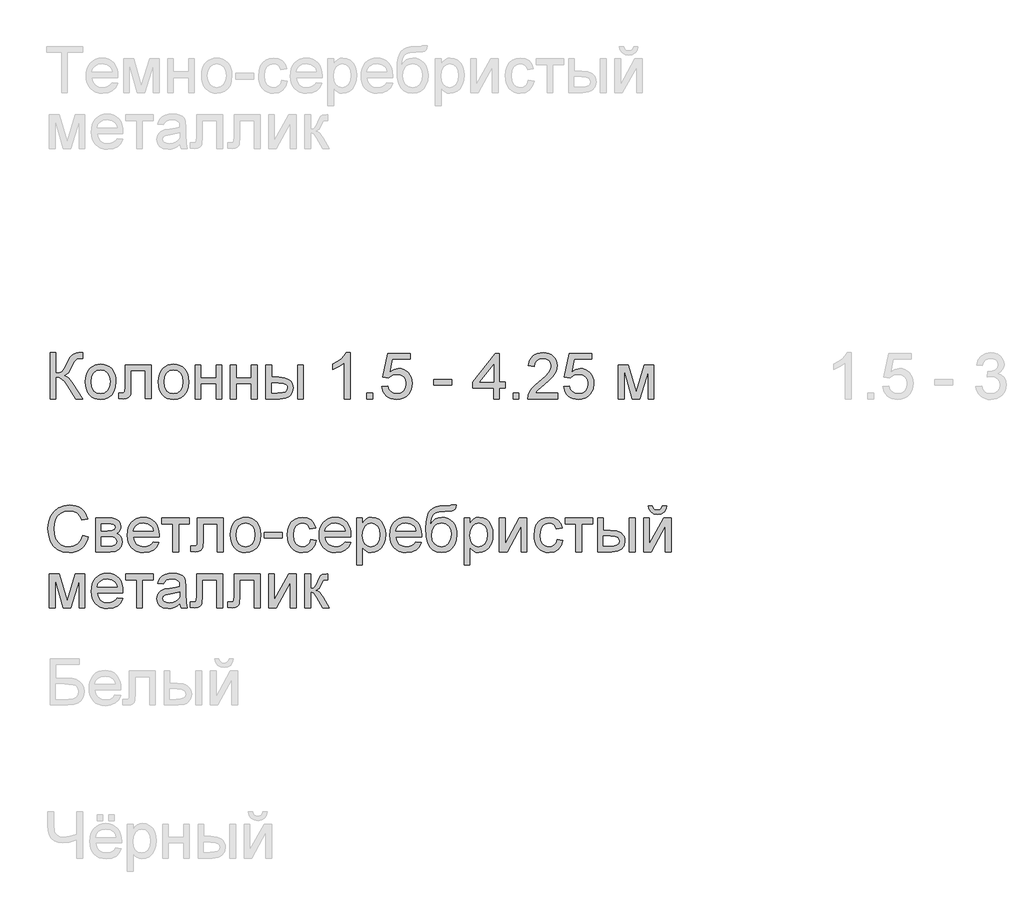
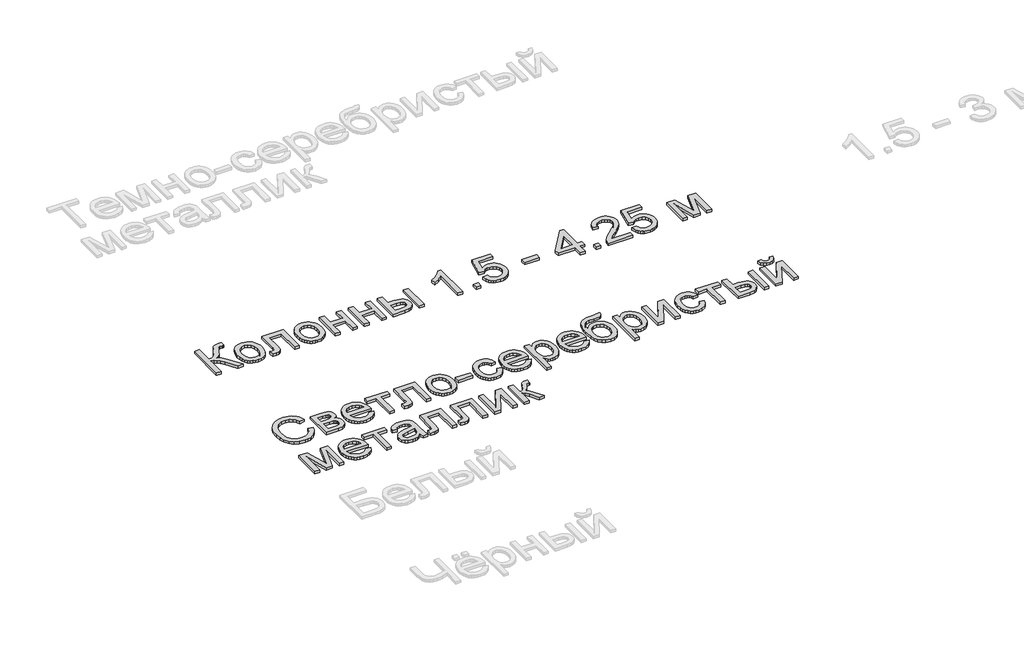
# One storey, part 9 of 168: 2 proxies.
"""IFC4 building model written with IfcOpenShell, lengths in millimetres."""

from ifc_helpers import new_model, si_unit, origin, origin_with_axes, place, context, project, spatial, polyline, outline, extrude, element, save

model = new_model("IFC4")

# Units and contexts
model_context = context("Model", 3, world=origin())
ifc_project = project(units=[si_unit("LENGTHUNIT", "METRE", prefix="MILLI")], contexts=[model_context])

# Site, building, storey
site = spatial("IfcSite", under=ifc_project)
building = spatial("IfcBuilding", under=site)
storey = spatial("IfcBuildingStorey", under=building, Name="Этаж 01", Elevation=0.0)

# Proxies
placement = place(None, origin())
element("IfcBuildingElementProxy", 1, Name="300 мм Arial 2", ObjectType="300 мм Arial 2", at=placement, inside=storey, context=model_context, shape_type="SweptSolid", body=[
    extrude(outline(polyline([(990.7177608, -37859.7350607), (1028.3888771, -37869.4471454), (1020.9346682, -37892.8743307), (1011.0064528, -37913.3446645), (998.6042311, -37930.8581467), (983.7280029, -37945.4147774), (966.7134606, -37956.8582067), (947.8962965, -37965.0320848), (927.2765107, -37969.9364117), (904.8541031, -37971.5711873), (861.1589191, -37966.6231744), (826.4584499, -37951.7791359), (799.8605817, -37927.5541065), (780.4732005, -37894.4631211), (768.6365973, -37855.5596001), (764.6910629, -37813.8969641), (769.1516321, -37769.9534598), (782.5333397, -37732.006432), (804.1372099, -37701.2606943), (833.2642668, -37678.9210601), (867.8083862, -37665.3186233), (905.6634435, -37660.7844777), (946.9673945, -37666.6521956), (964.9361307, -37673.9868428), (981.1160407, -37684.255349), (995.2404101, -37697.1864012), (1007.0425243, -37712.5086863), (1023.6799876, -37750.3269554), (986.0088712, -37759.3032761), (972.9490604, -37731.8316881), (955.1067837, -37712.9869329), (932.2613118, -37702.0884288), (904.1919155, -37698.4555941), (871.836694, -37702.4839019), (845.2572199, -37714.5688254), (825.0880895, -37733.4411718), (811.9638993, -37757.8317481), (804.7626093, -37785.4045036), (802.3621793, -37813.8233877), (805.2040677, -37848.6250245), (813.7297329, -37878.7177717), (828.2610717, -37902.9519981), (849.1199808, -37920.1780725), (874.1267595, -37930.4695714), (901.1017068, -37933.900071), (932.5464203, -37929.2279696), (958.7488154, -37915.2116656), (978.5316697, -37891.9983117), (990.7177608, -37859.7350607)])), origin_with_axes(), (0.0, 0.0, 1.0), 20.0),
    extrude(outline(polyline([(1075.4777725, -37745.5444894), (1158.4719506, -37745.5444894), (1185.1525923, -37746.8044853), (1203.9789534, -37750.5844728), (1217.8297105, -37757.7213835), (1229.5835403, -37769.0521489), (1237.6125648, -37783.813414), (1240.2889063, -37801.2418235), (1238.6702255, -37815.2857187), (1233.8141832, -37827.3982334), (1225.7023852, -37837.6345499), (1214.3164375, -37846.0498505), (1228.2591651, -37853.87654), (1239.6267187, -37866.4673012), (1247.1866937, -37882.828853), (1249.7066854, -37901.9679138), (1243.3239328, -37930.6811035), (1228.1488005, -37950.8962191), (1204.1261062, -37962.8707781), (1171.2006676, -37966.8622977), (1075.4777725, -37966.8622977), (1075.4777725, -37745.5444894)]), holes=[polyline([(1113.1488888, -37830.3045011), (1150.3785467, -37830.3045011), (1181.0966933, -37828.3915147), (1196.0327023, -37820.7395692), (1200.9715181, -37814.4119989), (1202.61779, -37806.9072062), (1199.7299163, -37795.6684113), (1191.0662954, -37788.4395301), (1175.4129165, -37784.5215868), (1151.5557691, -37783.2156057), (1113.1488888, -37783.2156057), (1113.1488888, -37830.3045011)]), polyline([(1113.1488888, -37929.1911814), (1159.3548674, -37929.1911814), (1184.5363899, -37927.4897272), (1200.3369216, -37922.3853645), (1208.8166016, -37913.1055412), (1212.0355691, -37898.877705), (1210.4260854, -37889.4507289), (1205.5976342, -37880.7411227), (1198.184812, -37873.9261087), (1188.8222152, -37870.1829094), (1155.6760474, -37867.9756174), (1113.1488888, -37867.9756174), (1113.1488888, -37929.1911814)])]), origin_with_axes(), (0.0, 0.0, 1.0), 20.0),
    extrude(outline(polyline([(1451.7474771, -37900.9378442), (1488.6828295, -37905.6467337), (1475.3746983, -37933.4770067), (1454.1387101, -37954.2807335), (1425.4531115, -37967.2485738), (1389.7961492, -37971.5711873), (1366.4218469, -37969.7064854), (1345.5951274, -37964.1123798), (1327.3159908, -37954.7888705), (1311.584437, -37941.7359575), (1298.9338949, -37925.3169242), (1289.8977934, -37905.8950541), (1284.4761325, -37883.4703472), (1282.6689122, -37858.0428036), (1284.4945266, -37831.7530365), (1289.9713698, -37808.5810693), (1299.0994418, -37788.526902), (1311.8787426, -37771.5905347), (1327.5689097, -37758.1352507), (1345.4295805, -37748.5243336), (1365.4607552, -37742.7577833), (1387.6624336, -37740.8355999), (1409.1490414, -37742.7531848), (1428.5801085, -37748.5059395), (1445.955635, -37758.093864), (1461.2756208, -37771.5169583), (1473.7813094, -37788.4165374), (1482.7139441, -37808.4339165), (1488.0735249, -37831.5690955), (1489.8600518, -37857.8220744), (1489.6393226, -37867.9756174), (1320.3400285, -37867.9756174), (1326.8607368, -37896.1737724), (1342.008278, -37916.9039228), (1363.8696655, -37929.6510339), (1390.5319131, -37933.900071), (1410.5814819, -37931.9319023), (1427.4672655, -37926.0273963), (1441.1892639, -37915.8186709), (1451.7474771, -37900.9378442)]), holes=[polyline([(1320.3400285, -37830.3045011), (1452.1889355, -37830.3045011), (1447.0937699, -37810.4020852), (1437.1057737, -37796.165052), (1415.1432186, -37782.9213001), (1387.5152808, -37778.5067162), (1362.1222261, -37782.0291863), (1341.1253612, -37792.5965966), (1326.529643, -37809.068513), (1320.3400285, -37830.3045011)])]), origin_with_axes(), (0.0, 0.0, 1.0), 20.0),
    extrude(outline(polyline([(1508.69561, -37745.5444894), (1687.6334124, -37745.5444894), (1687.6334124, -37783.2156057), (1617.0000694, -37783.2156057), (1617.0000694, -37966.8622977), (1579.3289531, -37966.8622977), (1579.3289531, -37783.2156057), (1508.69561, -37783.2156057), (1508.69561, -37745.5444894)])), origin_with_axes(), (0.0, 0.0, 1.0), 20.0),
    extrude(outline(polyline([(1739.4311974, -37745.5444894), (1908.9512207, -37745.5444894), (1908.9512207, -37966.6415685), (1871.2801044, -37966.6415685), (1871.2801044, -37783.2156057), (1777.1023137, -37783.2156057), (1777.1023137, -37888.7977384), (1774.5639279, -37937.5053145), (1769.8090531, -37948.5325773), (1760.6212003, -37958.069918), (1746.6784727, -37964.6642028), (1727.6589735, -37966.8622977), (1697.0511915, -37964.9493114), (1697.0511915, -37929.1911814), (1713.9001869, -37929.1911814), (1730.9331233, -37926.8735249), (1737.7389402, -37919.515885), (1739.4311974, -37886.6640228), (1739.4311974, -37745.5444894)])), origin_with_axes(), (0.0, 0.0, 1.0), 20.0),
    extrude(outline(polyline([(1956.0401161, -37856.2033936), (1958.0772627, -37827.5407876), (1964.1887023, -37802.8421102), (1974.3744351, -37782.1073612), (1988.6344609, -37765.3365408), (2002.9910558, -37754.6173791), (2018.8375727, -37746.9608351), (2036.1740117, -37742.3669087), (2055.0003728, -37740.8355999), (2075.7834063, -37742.7003018), (2094.5752785, -37748.2944073), (2111.3759893, -37757.6179167), (2126.1855389, -37770.6708297), (2138.2727617, -37787.0116881), (2146.9064923, -37806.1990334), (2152.0867306, -37828.2328656), (2153.8134767, -37853.1131848), (2150.7600562, -37891.1705772), (2141.5997945, -37920.1412843), (2126.5994061, -37941.837125), (2106.0256056, -37958.069918), (2081.589044, -37968.19587), (2055.0003728, -37971.5711873), (2033.9138367, -37969.7133832), (2014.9472206, -37964.139971), (1998.1005245, -37954.8509506), (1983.3737484, -37941.8463221), (1971.4152843, -37925.3468146), (1962.8735242, -37905.5731573), (1957.7484681, -37882.5253503), (1956.0401161, -37856.2033936)]), holes=[polyline([(1993.7112324, -37856.1298172), (1998.0706341, -37890.2232811), (2011.148839, -37914.5126898), (2030.8305257, -37929.0532257), (2055.0003728, -37933.900071), (2079.0598553, -37929.0256345), (2098.7047539, -37914.4023252), (2111.7829588, -37889.7910197), (2116.1423604, -37854.9525948), (2111.7553676, -37821.8524123), (2098.5943893, -37797.8940973), (2078.9218996, -37783.3535615), (2055.0003728, -37778.5067162), (2030.8305257, -37783.3351674), (2011.148839, -37797.8205209), (1998.0706341, -37822.0547474), (1993.7112324, -37856.1298172)])]), origin_with_axes(), (0.0, 0.0, 1.0), 20.0),
    extrude(outline(polyline([(2177.3579244, -37877.3933965), (2177.3579244, -37839.7222802), (2295.0801629, -37839.7222802), (2295.0801629, -37877.3933965), (2177.3579244, -37877.3933965)])), origin_with_axes(), (0.0, 0.0, 1.0), 20.0),
    extrude(outline(polyline([(2478.7268549, -37886.8111756), (2516.3979712, -37891.5200651), (2505.8949402, -37925.0249178), (2486.1580712, -37950.3443962), (2459.0451681, -37966.2644895), (2426.4140352, -37971.5711873), (2405.2861123, -37969.720281), (2386.3424888, -37964.1675621), (2369.5831647, -37954.9130307), (2355.0081399, -37941.9566867), (2343.2106242, -37925.5422519), (2334.7838272, -37905.9134482), (2329.727749, -37883.0702755), (2328.0423897, -37857.012734), (2330.9210663, -37823.4894872), (2339.5570961, -37794.4360066), (2354.0884349, -37770.9743324), (2374.6530384, -37754.2265045), (2399.2551469, -37744.1833261), (2425.8990004, -37740.8355999), (2457.72999, -37745.4341248), (2483.178227, -37759.2296997), (2501.434371, -37781.4865604), (2511.6890816, -37811.468943), (2474.0179653, -37816.1778325), (2467.1845573, -37799.7427044), (2456.5435706, -37787.9612835), (2442.6836164, -37780.870358), (2426.193306, -37778.5067162), (2401.8487149, -37783.1604234), (2382.5257131, -37797.1215452), (2369.9165578, -37821.1442394), (2365.713506, -37855.9826644), (2369.8245873, -37891.2901389), (2382.1578311, -37915.3956066), (2401.131345, -37929.2739549), (2425.1632364, -37933.900071), (2444.6701792, -37931.0121973), (2460.6638489, -37922.3485763), (2472.298117, -37907.6884788), (2478.7268549, -37886.8111756)])), origin_with_axes(), (0.0, 0.0, 1.0), 20.0),
    extrude(outline(polyline([(2704.3120943, -37900.9378442), (2741.2474466, -37905.6467337), (2727.9393155, -37933.4770067), (2706.7033273, -37954.2807335), (2678.0177287, -37967.2485738), (2642.3607663, -37971.5711873), (2618.9864641, -37969.7064854), (2598.1597446, -37964.1123798), (2579.880608, -37954.7888705), (2564.1490542, -37941.7359575), (2551.498512, -37925.3169242), (2542.4624105, -37905.8950541), (2537.0407496, -37883.4703472), (2535.2335293, -37858.0428036), (2537.0591437, -37831.7530365), (2542.5359869, -37808.5810693), (2551.6640589, -37788.526902), (2564.4433598, -37771.5905347), (2580.1335268, -37758.1352507), (2597.9941977, -37748.5243336), (2618.0253723, -37742.7577833), (2640.2270508, -37740.8355999), (2661.7136585, -37742.7531848), (2681.1447257, -37748.5059395), (2698.5202522, -37758.093864), (2713.840238, -37771.5169583), (2726.3459266, -37788.4165374), (2735.2785613, -37808.4339165), (2740.6381421, -37831.5690955), (2742.424669, -37857.8220744), (2742.2039398, -37867.9756174), (2572.9046456, -37867.9756174), (2579.425354, -37896.1737724), (2594.5728952, -37916.9039228), (2616.4342827, -37929.6510339), (2643.0965303, -37933.900071), (2663.1460991, -37931.9319023), (2680.0318826, -37926.0273963), (2693.7538811, -37915.8186709), (2704.3120943, -37900.9378442)]), holes=[polyline([(2572.9046456, -37830.3045011), (2704.7535527, -37830.3045011), (2699.6583871, -37810.4020852), (2689.6703909, -37796.165052), (2667.7078358, -37782.9213001), (2640.079898, -37778.5067162), (2614.6868432, -37782.0291863), (2593.6899784, -37792.5965966), (2579.0942602, -37809.068513), (2572.9046456, -37830.3045011)])]), origin_with_axes(), (0.0, 0.0, 1.0), 20.0),
    extrude(outline(polyline([(2780.0957853, -38051.6223094), (2780.0957853, -37745.5444894), (2817.7669016, -37745.5444894), (2817.7669016, -37782.4798418), (2830.0541603, -37764.2604859), (2843.8129469, -37751.2466604), (2859.8526019, -37743.438365), (2878.9824656, -37740.8355999), (2904.4582938, -37744.4776316), (2926.7335486, -37755.4037269), (2944.870131, -37772.9516981), (2957.9299418, -37796.4593576), (2965.8210106, -37824.2160541), (2968.4513669, -37854.5111364), (2965.4807197, -37886.7284021), (2956.5687784, -37915.5427594), (2942.0006514, -37939.4918773), (2922.0614473, -37957.1134249), (2898.8388963, -37967.9567467), (2874.4207289, -37971.5711873), (2857.102684, -37969.1523632), (2841.6424431, -37961.8958908), (2828.4078883, -37950.9422044), (2817.7669016, -37937.4317381), (2817.7669016, -38051.6223094), (2780.0957853, -38051.6223094)]), holes=[polyline([(2817.7669016, -37857.9692272), (2821.8411947, -37891.7407943), (2834.064074, -37915.3588184), (2852.0994888, -37929.2647578), (2873.6113885, -37933.900071), (2895.4727761, -37929.0992109), (2913.9680434, -37914.6966308), (2926.5771988, -37890.214084), (2930.7802505, -37855.173324), (2926.6783663, -37821.5856978), (2914.3727136, -37797.63658), (2896.3648899, -37783.2891821), (2875.1564929, -37778.5067162), (2853.8653224, -37783.5926848), (2835.16772, -37798.8505905), (2822.1171062, -37823.8021869), (2817.7669016, -37857.9692272)])]), origin_with_axes(), (0.0, 0.0, 1.0), 20.0),
    extrude(outline(polyline([(3165.7832691, -37900.9378442), (3202.7186214, -37905.6467337), (3189.4104902, -37933.4770067), (3168.174502, -37954.2807335), (3139.4889035, -37967.2485738), (3103.8319411, -37971.5711873), (3080.4576388, -37969.7064854), (3059.6309194, -37964.1123798), (3041.3517827, -37954.7888705), (3025.6202289, -37941.7359575), (3012.9696868, -37925.3169242), (3003.9335853, -37905.8950541), (2998.5119244, -37883.4703472), (2996.7047041, -37858.0428036), (2998.5303185, -37831.7530365), (3004.0071617, -37808.5810693), (3013.1352337, -37788.526902), (3025.9145345, -37771.5905347), (3041.6047016, -37758.1352507), (3059.4653725, -37748.5243336), (3079.4965471, -37742.7577833), (3101.6982255, -37740.8355999), (3123.1848333, -37742.7531848), (3142.6159004, -37748.5059395), (3159.9914269, -37758.093864), (3175.3114127, -37771.5169583), (3187.8171013, -37788.4165374), (3196.749736, -37808.4339165), (3202.1093168, -37831.5690955), (3203.8958438, -37857.8220744), (3203.6751146, -37867.9756174), (3034.3758204, -37867.9756174), (3040.8965288, -37896.1737724), (3056.0440699, -37916.9039228), (3077.9054575, -37929.6510339), (3104.5677051, -37933.900071), (3124.6172738, -37931.9319023), (3141.5030574, -37926.0273963), (3155.2250558, -37915.8186709), (3165.7832691, -37900.9378442)]), holes=[polyline([(3034.3758204, -37830.3045011), (3166.2247275, -37830.3045011), (3161.1295618, -37810.4020852), (3151.1415657, -37796.165052), (3129.1790105, -37782.9213001), (3101.5510727, -37778.5067162), (3076.158018, -37782.0291863), (3055.1611531, -37792.5965966), (3040.565435, -37809.068513), (3034.3758204, -37830.3045011)])]), origin_with_axes(), (0.0, 0.0, 1.0), 20.0),
    extrude(outline(polyline([(3396.9603148, -37660.7844777), (3429.9225416, -37660.7844777), (3426.3540863, -37678.6911339), (3420.2104569, -37690.1782492), (3411.6939887, -37696.974869), (3401.0070168, -37700.8100388), (3354.8746146, -37703.1644836), (3316.5689018, -37705.3349874), (3292.7393456, -37711.8464987), (3278.4839183, -37723.1404759), (3268.9005923, -37739.6583775), (3263.2628007, -37761.5289621), (3260.8439766, -37788.8809885), (3275.9915178, -37767.8381383), (3293.4751096, -37752.8285529), (3313.3131462, -37743.8338382), (3335.5240216, -37740.8355999), (3356.0472384, -37742.7416885), (3374.7218482, -37748.4599542), (3391.547851, -37757.9903972), (3406.5252467, -37771.3330173), (3418.8217024, -37787.9267945), (3427.604885, -37807.2107089), (3432.8747946, -37829.1847603), (3434.6314311, -37853.8489488), (3431.1457492, -37889.8094138), (3420.6887035, -37918.6697564), (3405.4491919, -37941.101361), (3387.6161122, -37957.7756125), (3365.0281577, -37968.1222936), (3335.5240216, -37971.5711873), (3301.5225282, -37967.1290122), (3276.037503, -37953.8024869), (3257.2847183, -37933.5505831), (3243.4799464, -37908.3322723), (3234.9818724, -37870.3576533), (3232.149181, -37811.836825), (3233.9357079, -37772.1722481), (3239.2952888, -37739.55721), (3248.2279234, -37713.9917106), (3260.733612, -37695.4757499), (3276.9457117, -37682.3584575), (3296.9975797, -37672.9889629), (3320.889216, -37667.3672662), (3348.6206207, -37665.4933673), (3390.5591681, -37664.6472387), (3396.9603148, -37660.7844777)]), holes=[polyline([(3396.9603148, -37852.6717264), (3392.8768247, -37823.0296347), (3380.6263543, -37799.2920489), (3360.9446675, -37783.7030494), (3334.5675285, -37778.5067162), (3307.0683493, -37783.997355), (3295.9813057, -37790.8606535), (3286.6692927, -37800.4692713), (3274.0325461, -37826.1198434), (3269.8202973, -37859.1464495), (3274.4740045, -37891.1613802), (3288.4351263, -37914.6598426), (3309.220459, -37929.0900139), (3334.3467993, -37933.900071), (3359.6018982, -37928.3358558), (3379.5962847, -37911.6432103), (3392.6193073, -37885.7719089), (3396.9603148, -37852.6717264)])]), origin_with_axes(), (0.0, 0.0, 1.0), 20.0),
    extrude(outline(polyline([(3481.7203265, -38051.6223094), (3481.7203265, -37745.5444894), (3519.3914428, -37745.5444894), (3519.3914428, -37782.4798418), (3531.6787015, -37764.2604859), (3545.4374881, -37751.2466604), (3561.4771431, -37743.438365), (3580.6070068, -37740.8355999), (3606.082835, -37744.4776316), (3628.3580898, -37755.4037269), (3646.4946722, -37772.9516981), (3659.554483, -37796.4593576), (3667.4455518, -37824.2160541), (3670.0759081, -37854.5111364), (3667.1052609, -37886.7284021), (3658.1933196, -37915.5427594), (3643.6251926, -37939.4918773), (3623.6859885, -37957.1134249), (3600.4634375, -37967.9567467), (3576.0452701, -37971.5711873), (3558.7272252, -37969.1523632), (3543.2669843, -37961.8958908), (3530.0324295, -37950.9422044), (3519.3914428, -37937.4317381), (3519.3914428, -38051.6223094), (3481.7203265, -38051.6223094)]), holes=[polyline([(3519.3914428, -37857.9692272), (3523.4657359, -37891.7407943), (3535.6886152, -37915.3588184), (3553.72403, -37929.2647578), (3575.2359297, -37933.900071), (3597.0973173, -37929.0992109), (3615.5925846, -37914.6966308), (3628.20174, -37890.214084), (3632.4047917, -37855.173324), (3628.3029075, -37821.5856978), (3615.9972548, -37797.63658), (3597.9894311, -37783.2891821), (3576.7810341, -37778.5067162), (3555.4898636, -37783.5926848), (3536.7922612, -37798.8505905), (3523.7416474, -37823.8021869), (3519.3914428, -37857.9692272)])]), origin_with_axes(), (0.0, 0.0, 1.0), 20.0),
    extrude(outline(polyline([(3712.4559139, -37745.5444894), (3750.1270302, -37745.5444894), (3750.1270302, -37914.3287488), (3842.6861402, -37745.5444894), (3891.3937164, -37745.5444894), (3891.3937164, -37966.8622977), (3853.7226, -37966.8622977), (3853.7226, -37799.1081079), (3761.7521013, -37966.8622977), (3712.4559139, -37966.8622977), (3712.4559139, -37745.5444894)])), origin_with_axes(), (0.0, 0.0, 1.0), 20.0),
    extrude(outline(polyline([(4089.167077, -37886.8111756), (4126.8381933, -37891.5200651), (4116.3351623, -37925.0249178), (4096.5982933, -37950.3443962), (4069.4853902, -37966.2644895), (4036.8542572, -37971.5711873), (4015.7263344, -37969.720281), (3996.7827109, -37964.1675621), (3980.0233868, -37954.9130307), (3965.448362, -37941.9566867), (3953.6508463, -37925.5422519), (3945.2240493, -37905.9134482), (3940.1679711, -37883.0702755), (3938.4826117, -37857.012734), (3941.3612883, -37823.4894872), (3949.9973182, -37794.4360066), (3964.528657, -37770.9743324), (3985.0932605, -37754.2265045), (4009.695369, -37744.1833261), (4036.3392225, -37740.8355999), (4068.1702121, -37745.4341248), (4093.6184491, -37759.2296997), (4111.8745931, -37781.4865604), (4122.1293037, -37811.468943), (4084.4581874, -37816.1778325), (4077.6247794, -37799.7427044), (4066.9837927, -37787.9612835), (4053.1238385, -37780.870358), (4036.6335281, -37778.5067162), (4012.288937, -37783.1604234), (3992.9659352, -37797.1215452), (3980.3567798, -37821.1442394), (3976.153728, -37855.9826644), (3980.2648093, -37891.2901389), (3992.5980532, -37915.3956066), (4011.5715671, -37929.2739549), (4035.6034585, -37933.900071), (4055.1104013, -37931.0121973), (4071.104071, -37922.3485763), (4082.7383391, -37907.6884788), (4089.167077, -37886.8111756)])), origin_with_axes(), (0.0, 0.0, 1.0), 20.0),
    extrude(outline(polyline([(4140.9648619, -37745.5444894), (4319.9026643, -37745.5444894), (4319.9026643, -37783.2156057), (4249.2693213, -37783.2156057), (4249.2693213, -37966.8622977), (4211.598205, -37966.8622977), (4211.598205, -37783.2156057), (4140.9648619, -37783.2156057), (4140.9648619, -37745.5444894)])), origin_with_axes(), (0.0, 0.0, 1.0), 20.0),
    extrude(outline(polyline([(4560.0560308, -37745.5444894), (4597.7271471, -37745.5444894), (4597.7271471, -37966.8622977), (4560.0560308, -37966.8622977), (4560.0560308, -37745.5444894)])), origin_with_axes(), (0.0, 0.0, 1.0), 20.0),
    extrude(outline(polyline([(4352.8648911, -37745.5444894), (4390.5360074, -37745.5444894), (4390.5360074, -37825.5956116), (4437.109868, -37825.5956116), (4477.3653553, -37830.3136982), (4493.5820535, -37836.2113064), (4507.1913881, -37844.4679579), (4517.9588342, -37854.7985442), (4525.6498672, -37866.9179567), (4530.264487, -37880.8261954), (4531.8026936, -37896.5232603), (4526.6431486, -37923.4798135), (4511.1645136, -37946.2241178), (4499.3026185, -37955.2533215), (4484.3551132, -37961.7027528), (4445.2032719, -37966.8622977), (4352.8648911, -37966.8622977), (4352.8648911, -37745.5444894)]), holes=[polyline([(4390.5360074, -37929.1911814), (4429.2371933, -37929.1911814), (4459.23797, -37927.2138157), (4479.1955682, -37921.2817185), (4490.397575, -37911.1557666), (4494.1315773, -37896.5968367), (4491.3632652, -37884.2911839), (4483.0583292, -37873.420271), (4465.2988259, -37865.8051137), (4434.166812, -37863.2667279), (4390.5360074, -37863.2667279), (4390.5360074, -37929.1911814)])]), origin_with_axes(), (0.0, 0.0, 1.0), 20.0),
    extrude(outline(polyline([(4654.2338216, -37745.5444894), (4691.9049379, -37745.5444894), (4691.9049379, -37914.3287488), (4784.4640478, -37745.5444894), (4833.171624, -37745.5444894), (4833.171624, -37966.8622977), (4795.5005077, -37966.8622977), (4795.5005077, -37799.1081079), (4703.5300089, -37966.8622977), (4654.2338216, -37966.8622977), (4654.2338216, -37745.5444894)])), origin_with_axes(), (0.0, 0.0, 1.0), 20.0),
    extrude(outline(polyline([(4776.6649495, -37665.4933673), (4804.9182868, -37665.4933673), (4798.8390368, -37689.6172291), (4786.6345516, -37707.3951265), (4768.8566542, -37718.3488129), (4746.0571675, -37722.0000417), (4721.3171034, -37718.3764041), (4702.1320573, -37707.5054911), (4689.0170642, -37689.7551849), (4682.4871588, -37665.4933673), (4710.740496, -37665.4933673), (4714.7136216, -37677.9001876), (4721.3354975, -37686.7201584), (4730.642912, -37691.990068), (4742.6726532, -37693.7467045), (4756.2474988, -37692.0452503), (4766.0699481, -37686.9408876), (4772.691824, -37678.1760991), (4776.6649495, -37665.4933673)])), origin_with_axes(), (0.0, 0.0, 1.0), 20.0),
    extrude(outline(polyline([(774.108842, -38111.468943), (838.9296496, -38111.468943), (888.8880245, -38288.6409118), (942.7459486, -38111.468943), (1004.8444294, -38111.468943), (1004.8444294, -38332.7867513), (967.1733131, -38332.7867513), (967.1733131, -38154.5847128), (913.0210834, -38332.7867513), (863.5777433, -38332.7867513), (811.7799583, -38146.0498505), (811.7799583, -38332.7867513), (774.108842, -38332.7867513), (774.108842, -38111.468943)])), origin_with_axes(), (0.0, 0.0, 1.0), 20.0),
    extrude(outline(polyline([(1216.3030002, -38266.8622977), (1253.2383525, -38271.5711873), (1239.9302214, -38299.4014602), (1218.6942332, -38320.205187), (1190.0086346, -38333.1730274), (1154.3516722, -38337.4956408), (1130.97737, -38335.6309389), (1110.1506505, -38330.0368334), (1091.8715139, -38320.713324), (1076.1399601, -38307.660411), (1063.489418, -38291.2413777), (1054.4533164, -38271.8195076), (1049.0316555, -38249.3948008), (1047.2244352, -38223.9672571), (1049.0500496, -38197.67749), (1054.5268928, -38174.5055228), (1063.6549649, -38154.4513556), (1076.4342657, -38137.5149882), (1092.1244328, -38124.0597043), (1109.9851036, -38114.4487871), (1130.0162783, -38108.6822369), (1152.2179567, -38106.7600534), (1173.7045644, -38108.6776383), (1193.1356316, -38114.430393), (1210.5111581, -38124.0183175), (1225.8311439, -38137.4414118), (1238.3368325, -38154.340991), (1247.2694672, -38174.35837), (1252.629048, -38197.493549), (1254.4155749, -38223.7465279), (1254.1948457, -38233.900071), (1084.8955515, -38233.900071), (1091.4162599, -38262.0982259), (1106.5638011, -38282.8283763), (1128.4251886, -38295.5754875), (1155.0874362, -38299.8245245), (1175.137005, -38297.8563558), (1192.0227885, -38291.9518498), (1205.744787, -38281.7431244), (1216.3030002, -38266.8622977)]), holes=[polyline([(1084.8955515, -38196.2289547), (1216.7444586, -38196.2289547), (1211.649293, -38176.3265387), (1201.6612968, -38162.0895055), (1179.6987417, -38148.8457537), (1152.0708039, -38144.4311697), (1126.6777492, -38147.9536398), (1105.6808843, -38158.5210502), (1091.0851661, -38174.9929665), (1084.8955515, -38196.2289547)])]), origin_with_axes(), (0.0, 0.0, 1.0), 20.0),
    extrude(outline(polyline([(1273.2511331, -38111.468943), (1452.1889355, -38111.468943), (1452.1889355, -38149.1400593), (1381.5555925, -38149.1400593), (1381.5555925, -38332.7867513), (1343.8844762, -38332.7867513), (1343.8844762, -38149.1400593), (1273.2511331, -38149.1400593), (1273.2511331, -38111.468943)])), origin_with_axes(), (0.0, 0.0, 1.0), 20.0),
    extrude(outline(polyline([(1626.4178484, -38304.533414), (1608.4192218, -38319.9660637), (1589.8871663, -38330.0644245), (1570.3986176, -38335.6378367), (1549.5305115, -38337.4956408), (1518.0490097, -38333.0258746), (1494.8264588, -38319.6165758), (1480.5066521, -38299.2543074), (1475.7333832, -38273.925632), (1477.536005, -38258.3090413), (1482.9438703, -38244.1271904), (1491.2855946, -38231.9870846), (1501.8897931, -38222.4957291), (1528.2669321, -38210.1348941), (1560.8612769, -38204.4695114), (1599.3785218, -38198.509823), (1626.1971193, -38191.5200651), (1626.4178484, -38183.1323556), (1623.8242804, -38166.3201485), (1616.0435762, -38155.3204768), (1598.6427578, -38147.1534965), (1574.3993343, -38144.4311697), (1551.9585326, -38146.2429886), (1536.2867596, -38151.678445), (1525.5997877, -38161.7308206), (1518.1133891, -38177.3933965), (1480.4422728, -38172.684507), (1486.9813752, -38152.0831152), (1496.7394452, -38135.8963075), (1510.6269905, -38123.5170783), (1529.5545191, -38114.3384225), (1552.7034937, -38108.6546457), (1579.2553767, -38106.7600534), (1604.7220078, -38108.4339165), (1624.9095323, -38113.4555057), (1640.1306498, -38121.0062837), (1650.6980601, -38130.2677129), (1657.7062121, -38141.71804), (1662.2495548, -38155.8355116), (1664.0889648, -38188.7977384), (1664.0889648, -38235.6659045), (1666.0019511, -38301.1121115), (1673.5067438, -38332.7867513), (1635.8356275, -38332.7867513), (1626.4178484, -38304.533414)]), holes=[polyline([(1626.4178484, -38229.1911814), (1565.6437428, -38240.7426761), (1533.2333391, -38246.8495172), (1518.5548475, -38256.7823311), (1513.4044995, -38271.2768817), (1516.2095997, -38282.4788884), (1524.6249004, -38291.6575442), (1538.4664605, -38297.7827794), (1557.550339, -38299.8245245), (1577.7838487, -38297.5712473), (1595.6629137, -38290.8114156), (1610.1574643, -38280.8510106), (1620.2374309, -38268.9960133), (1624.7071972, -38256.7823311), (1626.1971193, -38239.8597593), (1626.4178484, -38229.1911814)])]), origin_with_axes(), (0.0, 0.0, 1.0), 20.0),
    extrude(outline(polyline([(1734.7223078, -38111.468943), (1904.2423312, -38111.468943), (1904.2423312, -38332.5660221), (1866.5712149, -38332.5660221), (1866.5712149, -38149.1400593), (1772.3934241, -38149.1400593), (1772.3934241, -38254.7221919), (1769.8550384, -38303.4297681), (1765.1001636, -38314.4570309), (1755.9123108, -38323.9943716), (1741.9695831, -38330.5886563), (1722.950084, -38332.7867513), (1692.342302, -38330.8737649), (1692.342302, -38295.115635), (1709.1912974, -38295.115635), (1726.2242337, -38292.7979784), (1733.0300507, -38285.4403385), (1734.7223078, -38252.5884763), (1734.7223078, -38111.468943)])), origin_with_axes(), (0.0, 0.0, 1.0), 20.0),
    extrude(outline(polyline([(1979.5845638, -38111.468943), (2149.1045872, -38111.468943), (2149.1045872, -38332.5660221), (2111.4334709, -38332.5660221), (2111.4334709, -38149.1400593), (2017.2556801, -38149.1400593), (2017.2556801, -38254.7221919), (2014.7172944, -38303.4297681), (2009.9624196, -38314.4570309), (2000.7745667, -38323.9943716), (1986.8318391, -38330.5886563), (1967.81234, -38332.7867513), (1937.204558, -38330.8737649), (1937.204558, -38295.115635), (1954.0535534, -38295.115635), (1971.0864897, -38292.7979784), (1977.8923066, -38285.4403385), (1979.5845638, -38252.5884763), (1979.5845638, -38111.468943)])), origin_with_axes(), (0.0, 0.0, 1.0), 20.0),
    extrude(outline(polyline([(2205.6112617, -38111.468943), (2243.282378, -38111.468943), (2243.282378, -38280.2532024), (2335.8414879, -38111.468943), (2384.5490641, -38111.468943), (2384.5490641, -38332.7867513), (2346.8779478, -38332.7867513), (2346.8779478, -38165.0325615), (2254.907449, -38332.7867513), (2205.6112617, -38332.7867513), (2205.6112617, -38111.468943)])), origin_with_axes(), (0.0, 0.0, 1.0), 20.0),
    extrude(outline(polyline([(2441.0557386, -38111.468943), (2478.7268549, -38111.468943), (2478.7268549, -38205.6467337), (2494.04914, -38203.9544766), (2503.9635597, -38198.877705), (2512.7375453, -38185.6339532), (2524.6385279, -38159.4407551), (2541.818617, -38125.4116706), (2556.9753552, -38114.3384225), (2584.5297167, -38111.468943), (2591.7402038, -38111.468943), (2591.7402038, -38149.3607885), (2581.5866607, -38149.1400593), (2563.192561, -38153.1131848), (2550.2431147, -38177.9084313), (2535.0495883, -38204.7270287), (2513.7492208, -38217.860416), (2525.6869916, -38223.1625152), (2537.5143977, -38232.5205135), (2560.8381162, -38263.404207), (2601.1579829, -38332.7867513), (2558.3365186, -38332.7867513), (2518.8259923, -38264.875735), (2498.9603646, -38236.1441511), (2489.6713442, -38230.9294239), (2478.7268549, -38229.1911814), (2478.7268549, -38332.7867513), (2441.0557386, -38332.7867513), (2441.0557386, -38111.468943)])), origin_with_axes(), (0.0, 0.0, 1.0), 20.0),
])
element("IfcBuildingElementProxy", 2, Name="300 мм Arial 2", ObjectType="300 мм Arial 2", at=placement, inside=storey, context=model_context, shape_type="SweptSolid", body=[
    extrude(outline(polyline([(778.8177316, -36665.4933673), (816.4888479, -36665.4933673), (816.4888479, -36797.3422744), (841.9922672, -36794.8498738), (858.6113363, -36787.3726723), (872.0482262, -36769.7787159), (888.0051077, -36736.9360507), (908.7904405, -36694.8135623), (918.8152248, -36683.4000234), (932.3348881, -36673.9546532), (948.3837402, -36667.6086888), (965.9960907, -36665.4933673), (990.7177608, -36665.9348257), (990.7177608, -36703.605942), (982.4036277, -36703.3852128), (974.0894946, -36703.1644836), (956.835829, -36705.4269579), (944.658935, -36712.2143807), (934.1742981, -36726.469808), (922.2917097, -36750.989143), (907.7143856, -36781.5233486), (895.620265, -36798.2251911), (869.611008, -36813.8233877), (884.2021276, -36820.0313964), (898.6920797, -36830.8563241), (927.3684812, -36866.3569367), (990.7177608, -36966.8622977), (947.0133798, -36966.8622977), (893.4497613, -36881.9551332), (872.7655961, -36854.7226686), (855.7418568, -36837.6253528), (838.3318413, -36828.6030469), (816.4888479, -36825.5956116), (816.4888479, -36966.8622977), (778.8177316, -36966.8622977), (778.8177316, -36665.4933673)])), origin_with_axes(), (0.0, 0.0, 1.0), 20.0),
    extrude(outline(polyline([(1009.5533189, -36856.2033936), (1011.5904655, -36827.5407876), (1017.7019051, -36802.8421102), (1027.8876379, -36782.1073612), (1042.1476637, -36765.3365408), (1056.5042586, -36754.6173791), (1072.3507755, -36746.9608351), (1089.6872145, -36742.3669087), (1108.5135756, -36740.8355999), (1129.2966091, -36742.7003018), (1148.0884813, -36748.2944073), (1164.8891921, -36757.6179167), (1179.6987417, -36770.6708297), (1191.7859645, -36787.0116881), (1200.4196951, -36806.1990334), (1205.5999334, -36828.2328656), (1207.3266795, -36853.1131848), (1204.273259, -36891.1705772), (1195.1129973, -36920.1412843), (1180.112609, -36941.837125), (1159.5388084, -36958.069918), (1135.1022468, -36968.19587), (1108.5135756, -36971.5711873), (1087.4270395, -36969.7133832), (1068.4604234, -36964.139971), (1051.6137273, -36954.8509506), (1036.8869512, -36941.8463221), (1024.9284871, -36925.3468146), (1016.386727, -36905.5731573), (1011.261671, -36882.5253503), (1009.5533189, -36856.2033936)]), holes=[polyline([(1047.2244352, -36856.1298172), (1051.5838369, -36890.2232811), (1064.6620418, -36914.5126898), (1084.3437286, -36929.0532257), (1108.5135756, -36933.900071), (1132.5730581, -36929.0256345), (1152.2179567, -36914.4023252), (1165.2961616, -36889.7910197), (1169.6555632, -36854.9525948), (1165.2685704, -36821.8524123), (1152.1075921, -36797.8940973), (1132.4351024, -36783.3535615), (1108.5135756, -36778.5067162), (1084.3437286, -36783.3351674), (1064.6620418, -36797.8205209), (1051.5838369, -36822.0547474), (1047.2244352, -36856.1298172)])]), origin_with_axes(), (0.0, 0.0, 1.0), 20.0),
    extrude(outline(polyline([(1268.5422435, -36745.5444894), (1438.0622669, -36745.5444894), (1438.0622669, -36966.6415685), (1400.3911506, -36966.6415685), (1400.3911506, -36783.2156057), (1306.2133598, -36783.2156057), (1306.2133598, -36888.7977384), (1303.6749741, -36937.5053145), (1298.9200993, -36948.5325773), (1289.7322465, -36958.069918), (1275.7895188, -36964.6642028), (1256.7700197, -36966.8622977), (1226.1622377, -36964.9493114), (1226.1622377, -36929.1911814), (1243.0112331, -36929.1911814), (1260.0441695, -36926.8735249), (1266.8499864, -36919.515885), (1268.5422435, -36886.6640228), (1268.5422435, -36745.5444894)])), origin_with_axes(), (0.0, 0.0, 1.0), 20.0),
    extrude(outline(polyline([(1485.1511623, -36856.2033936), (1487.1883089, -36827.5407876), (1493.2997485, -36802.8421102), (1503.4854812, -36782.1073612), (1517.7455071, -36765.3365408), (1532.1021019, -36754.6173791), (1547.9486189, -36746.9608351), (1565.2850579, -36742.3669087), (1584.111419, -36740.8355999), (1604.8944525, -36742.7003018), (1623.6863246, -36748.2944073), (1640.4870355, -36757.6179167), (1655.2965851, -36770.6708297), (1667.3838079, -36787.0116881), (1676.0175384, -36806.1990334), (1681.1977768, -36828.2328656), (1682.9245229, -36853.1131848), (1679.8711023, -36891.1705772), (1670.7108407, -36920.1412843), (1655.7104523, -36941.837125), (1635.1366517, -36958.069918), (1610.7000902, -36968.19587), (1584.111419, -36971.5711873), (1563.0248829, -36969.7133832), (1544.0582668, -36964.139971), (1527.2115707, -36954.8509506), (1512.4847945, -36941.8463221), (1500.5263304, -36925.3468146), (1491.9845704, -36905.5731573), (1486.8595143, -36882.5253503), (1485.1511623, -36856.2033936)]), holes=[polyline([(1522.8222786, -36856.1298172), (1527.1816803, -36890.2232811), (1540.2598852, -36914.5126898), (1559.9415719, -36929.0532257), (1584.111419, -36933.900071), (1608.1709015, -36929.0256345), (1627.8158, -36914.4023252), (1640.894005, -36889.7910197), (1645.2534066, -36854.9525948), (1640.8664138, -36821.8524123), (1627.7054354, -36797.8940973), (1608.0329457, -36783.3535615), (1584.111419, -36778.5067162), (1559.9415719, -36783.3351674), (1540.2598852, -36797.8205209), (1527.1816803, -36822.0547474), (1522.8222786, -36856.1298172)])]), origin_with_axes(), (0.0, 0.0, 1.0), 20.0),
    extrude(outline(polyline([(1725.3045288, -36745.5444894), (1762.9756451, -36745.5444894), (1762.9756451, -36830.3045011), (1861.8623254, -36830.3045011), (1861.8623254, -36745.5444894), (1899.5334417, -36745.5444894), (1899.5334417, -36966.8622977), (1861.8623254, -36966.8622977), (1861.8623254, -36867.9756174), (1762.9756451, -36867.9756174), (1762.9756451, -36966.8622977), (1725.3045288, -36966.8622977), (1725.3045288, -36745.5444894)])), origin_with_axes(), (0.0, 0.0, 1.0), 20.0),
    extrude(outline(polyline([(1956.0401161, -36745.5444894), (1993.7112324, -36745.5444894), (1993.7112324, -36830.3045011), (2092.5979127, -36830.3045011), (2092.5979127, -36745.5444894), (2130.269029, -36745.5444894), (2130.269029, -36966.8622977), (2092.5979127, -36966.8622977), (2092.5979127, -36867.9756174), (1993.7112324, -36867.9756174), (1993.7112324, -36966.8622977), (1956.0401161, -36966.8622977), (1956.0401161, -36745.5444894)])), origin_with_axes(), (0.0, 0.0, 1.0), 20.0),
    extrude(outline(polyline([(2393.9668432, -36745.5444894), (2431.6379595, -36745.5444894), (2431.6379595, -36966.8622977), (2393.9668432, -36966.8622977), (2393.9668432, -36745.5444894)])), origin_with_axes(), (0.0, 0.0, 1.0), 20.0),
    extrude(outline(polyline([(2186.7757035, -36745.5444894), (2224.4468198, -36745.5444894), (2224.4468198, -36825.5956116), (2271.0206804, -36825.5956116), (2311.2761677, -36830.3136982), (2327.4928659, -36836.2113064), (2341.1022005, -36844.4679579), (2351.8696466, -36854.7985442), (2359.5606796, -36866.9179567), (2364.1752994, -36880.8261954), (2365.713506, -36896.5232603), (2360.553961, -36923.4798135), (2345.075326, -36946.2241178), (2333.2134309, -36955.2533215), (2318.2659256, -36961.7027528), (2279.1140843, -36966.8622977), (2186.7757035, -36966.8622977), (2186.7757035, -36745.5444894)]), holes=[polyline([(2224.4468198, -36929.1911814), (2263.1480057, -36929.1911814), (2293.1487824, -36927.2138157), (2313.1063806, -36921.2817185), (2324.3083874, -36911.1557666), (2328.0423897, -36896.5968367), (2325.2740776, -36884.2911839), (2316.9691416, -36873.420271), (2299.2096383, -36865.8051137), (2268.0776244, -36863.2667279), (2224.4468198, -36863.2667279), (2224.4468198, -36929.1911814)])]), origin_with_axes(), (0.0, 0.0, 1.0), 20.0),
    extrude(outline(polyline([(2737.7157795, -36966.8622977), (2700.0446632, -36966.8622977), (2700.0446632, -36732.006432), (2664.3601096, -36757.4270779), (2624.7024306, -36776.446577), (2624.7024306, -36740.8355999), (2654.28934, -36724.7407626), (2679.921518, -36705.5925048), (2700.1274366, -36685.2302363), (2713.4355678, -36665.4933673), (2737.7157795, -36665.4933673), (2737.7157795, -36966.8622977)])), origin_with_axes(), (0.0, 0.0, 1.0), 20.0),
    extrude(outline(polyline([(2846.0202389, -36966.8622977), (2846.0202389, -36929.1911814), (2883.6913552, -36929.1911814), (2883.6913552, -36966.8622977), (2846.0202389, -36966.8622977)])), origin_with_axes(), (0.0, 0.0, 1.0), 20.0),
    extrude(outline(polyline([(2944.9069192, -36886.8111756), (2982.5780355, -36882.102286), (2989.494217, -36904.7178317), (3001.5607464, -36920.9138365), (3018.7224415, -36930.6535124), (3040.9241199, -36933.900071), (3067.9266584, -36929.3843195), (3088.1601681, -36915.837065), (3100.7969146, -36894.821806), (3105.0091635, -36867.902041), (3101.0636291, -36842.5549716), (3089.2270259, -36823.1675904), (3069.4073834, -36810.8619377), (3041.5127311, -36806.7600534), (3023.238193, -36808.3971283), (3008.4401397, -36813.3083529), (2987.286925, -36830.3045011), (2949.6158087, -36825.5956116), (2982.5780355, -36670.2022568), (3128.5536112, -36670.2022568), (3128.5536112, -36707.8733731), (3013.0386647, -36707.8733731), (2996.9254333, -36790.8675512), (3023.8360012, -36774.5335907), (3052.0341562, -36769.0889371), (3070.3799714, -36770.7765958), (3087.231266, -36775.8395717), (3102.5880401, -36784.277865), (3116.4502935, -36796.0914756), (3127.9259125, -36810.558435), (3136.1227832, -36826.956775), (3141.0409056, -36845.2864954), (3142.6802798, -36865.5475963), (3136.7757737, -36903.2187126), (3129.3951412, -36920.0125256), (3119.0622557, -36935.4451753), (3103.4088768, -36951.2503056), (3085.1435357, -36962.5396843), (3064.2662325, -36969.3133115), (3040.7769671, -36971.5711873), (3003.7772354, -36965.7678488), (2988.0985647, -36958.5136757), (2974.3006906, -36948.3578334), (2962.8204731, -36935.8061596), (2954.094772, -36921.364492), (2944.9069192, -36886.8111756)])), origin_with_axes(), (0.0, 0.0, 1.0), 20.0),
    extrude(outline(polyline([(3283.9469659, -36877.3933965), (3283.9469659, -36839.7222802), (3401.6692044, -36839.7222802), (3401.6692044, -36877.3933965), (3283.9469659, -36877.3933965)])), origin_with_axes(), (0.0, 0.0, 1.0), 20.0),
    extrude(outline(polyline([(3674.7847976, -36966.8622977), (3674.7847976, -36896.2289547), (3538.227001, -36896.2289547), (3538.227001, -36858.5578384), (3684.2025767, -36670.2022568), (3712.4559139, -36670.2022568), (3712.4559139, -36858.5578384), (3750.1270302, -36858.5578384), (3750.1270302, -36896.2289547), (3712.4559139, -36896.2289547), (3712.4559139, -36966.8622977), (3674.7847976, -36966.8622977)]), holes=[polyline([(3674.7847976, -36858.5578384), (3674.7847976, -36742.1599751), (3584.5801324, -36858.5578384), (3674.7847976, -36858.5578384)])]), origin_with_axes(), (0.0, 0.0, 1.0), 20.0),
    extrude(outline(polyline([(3801.9248151, -36966.8622977), (3801.9248151, -36929.1911814), (3839.5959314, -36929.1911814), (3839.5959314, -36966.8622977), (3801.9248151, -36966.8622977)])), origin_with_axes(), (0.0, 0.0, 1.0), 20.0),
    extrude(outline(polyline([(4093.8759665, -36929.1911814), (4093.8759665, -36966.8622977), (3896.1026059, -36966.8622977), (3900.1493078, -36940.8898289), (3909.4383282, -36920.5919398), (3923.0315679, -36900.901056), (3942.6948606, -36880.2904672), (3970.1940397, -36857.2334632), (4010.8450002, -36821.1258453), (4035.2355765, -36794.4727948), (4047.4308646, -36772.8413335), (4051.4959607, -36751.7984834), (4047.6607909, -36732.9353341), (4036.1552815, -36717.254364), (4018.4693545, -36706.6869537), (3996.0929322, -36703.1644836), (3972.5944697, -36706.6041802), (3954.3383257, -36716.9232702), (3942.5569048, -36733.3124131), (3938.4826117, -36754.9622685), (3900.8114954, -36750.253379), (3909.944166, -36713.8146674), (3918.4905246, -36699.27873), (3929.6902321, -36687.198405), (3943.285771, -36677.702451), (3959.0196241, -36670.9196267), (3996.9022726, -36665.4933673), (4017.0920963, -36667.0016835), (4035.0608325, -36671.526632), (4050.8084812, -36679.0682129), (4064.3350423, -36689.6264262), (4075.1990575, -36702.4195226), (4082.9590683, -36716.6657528), (4087.6150748, -36732.365117), (4089.167077, -36749.517615), (4087.4932139, -36767.5346357), (4082.4716246, -36785.2389567), (4073.5596833, -36803.2467804), (4060.2147639, -36822.174309), (4038.9419876, -36844.7714606), (4006.2464752, -36873.788153), (3962.9099762, -36910.0245295), (3945.913828, -36929.1911814), (4093.8759665, -36929.1911814)])), origin_with_axes(), (0.0, 0.0, 1.0), 20.0),
    extrude(outline(polyline([(4131.5470828, -36886.8111756), (4169.2181991, -36882.102286), (4176.1343806, -36904.7178317), (4188.2009101, -36920.9138365), (4205.3626051, -36930.6535124), (4227.5642835, -36933.900071), (4254.566822, -36929.3843195), (4274.8003317, -36915.837065), (4287.4370783, -36894.821806), (4291.6493271, -36867.902041), (4287.7037927, -36842.5549716), (4275.8671895, -36823.1675904), (4256.047547, -36810.8619377), (4228.1528947, -36806.7600534), (4209.8783566, -36808.3971283), (4195.0803034, -36813.3083529), (4173.9270887, -36830.3045011), (4136.2559723, -36825.5956116), (4169.2181991, -36670.2022568), (4315.1937748, -36670.2022568), (4315.1937748, -36707.8733731), (4199.6788283, -36707.8733731), (4183.5655969, -36790.8675512), (4210.4761649, -36774.5335907), (4238.6743198, -36769.0889371), (4257.020135, -36770.7765958), (4273.8714297, -36775.8395717), (4289.2282037, -36784.277865), (4303.0904572, -36796.0914756), (4314.5660761, -36810.558435), (4322.7629468, -36826.956775), (4327.6810693, -36845.2864954), (4329.3204434, -36865.5475963), (4323.4159374, -36903.2187126), (4316.0353049, -36920.0125256), (4305.7024193, -36935.4451753), (4290.0490404, -36951.2503056), (4271.7836994, -36962.5396843), (4250.9063961, -36969.3133115), (4227.4171307, -36971.5711873), (4190.4173991, -36965.7678488), (4174.7387283, -36958.5136757), (4160.9408542, -36948.3578334), (4149.4606367, -36935.8061596), (4140.7349356, -36921.364492), (4131.5470828, -36886.8111756)])), origin_with_axes(), (0.0, 0.0, 1.0), 20.0),
    extrude(outline(polyline([(4489.4226877, -36745.5444894), (4554.2434953, -36745.5444894), (4604.2018702, -36922.7164583), (4658.0597943, -36745.5444894), (4720.1582751, -36745.5444894), (4720.1582751, -36966.8622977), (4682.4871588, -36966.8622977), (4682.4871588, -36788.6602593), (4628.3349291, -36966.8622977), (4578.8915889, -36966.8622977), (4527.093804, -36780.125397), (4527.093804, -36966.8622977), (4489.4226877, -36966.8622977), (4489.4226877, -36745.5444894)])), origin_with_axes(), (0.0, 0.0, 1.0), 20.0),
])

save(model, "model.ifc")
